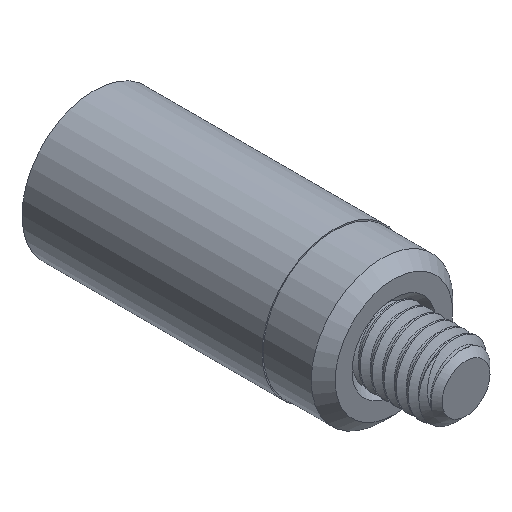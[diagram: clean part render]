
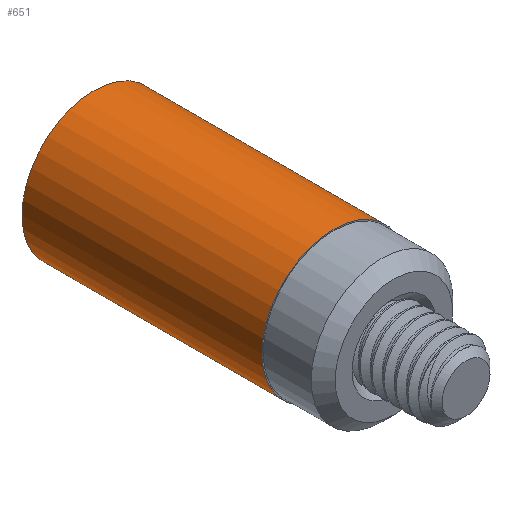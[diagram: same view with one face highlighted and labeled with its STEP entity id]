
A CAD part, isometric view. The second image highlights one B-rep face of the part: STEP entity #651.
In plain terms, the highlighted cylindrical face has radius 6 mm (diameter 12 mm), a full revolution.
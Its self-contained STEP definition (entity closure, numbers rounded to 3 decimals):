
#371 = CARTESIAN_POINT ( 'NONE',  ( -2.569, -13.448, 25.4 ) ) ;
#651 = ADVANCED_FACE ( 'NONE', ( #5472, #1785 ), #9781, .T. ) ;
#1654 = ORIENTED_EDGE ( 'NONE', *, *, #8504, .T. ) ;
#1785 = FACE_OUTER_BOUND ( 'NONE', #6944, .T. ) ;
#2042 = DIRECTION ( 'NONE',  ( 1., 0., 0. ) ) ;
#2163 = DIRECTION ( 'NONE',  ( 1., 0., 0. ) ) ;
#2984 = CARTESIAN_POINT ( 'NONE',  ( -2.569, -8.448, 25.4 ) ) ;
#3201 = ORIENTED_EDGE ( 'NONE', *, *, #6055, .F. ) ;
#3548 = CARTESIAN_POINT ( 'NONE',  ( -2.569, 11.552, 25.4 ) ) ;
#3803 = VERTEX_POINT ( 'NONE', #4437 ) ;
#4437 = CARTESIAN_POINT ( 'NONE',  ( 3.431, 11.552, 25.4 ) ) ;
#4657 = CIRCLE ( 'NONE', #8406, 6. ) ;
#5472 = FACE_OUTER_BOUND ( 'NONE', #10108, .T. ) ;
#5995 = CARTESIAN_POINT ( 'NONE',  ( 3.431, -8.448, 25.4 ) ) ;
#6055 = EDGE_CURVE ( 'NONE', #8617, #8617, #4657, .T. ) ;
#6210 = AXIS2_PLACEMENT_3D ( 'NONE', #371, #8391, #2042 ) ;
#6944 = EDGE_LOOP ( 'NONE', ( #1654 ) ) ;
#7274 = AXIS2_PLACEMENT_3D ( 'NONE', #3548, #9099, #9989 ) ;
#8355 = CIRCLE ( 'NONE', #7274, 6. ) ;
#8391 = DIRECTION ( 'NONE',  ( 0., -1., 0. ) ) ;
#8406 = AXIS2_PLACEMENT_3D ( 'NONE', #2984, #8770, #2163 ) ;
#8504 = EDGE_CURVE ( 'NONE', #3803, #3803, #8355, .T. ) ;
#8617 = VERTEX_POINT ( 'NONE', #5995 ) ;
#8770 = DIRECTION ( 'NONE',  ( 0., -1., 0. ) ) ;
#9099 = DIRECTION ( 'NONE',  ( 0., -1., 0. ) ) ;
#9781 = CYLINDRICAL_SURFACE ( 'NONE', #6210, 6. ) ;
#9989 = DIRECTION ( 'NONE',  ( 1., 0., 0. ) ) ;
#10108 = EDGE_LOOP ( 'NONE', ( #3201 ) ) ;
